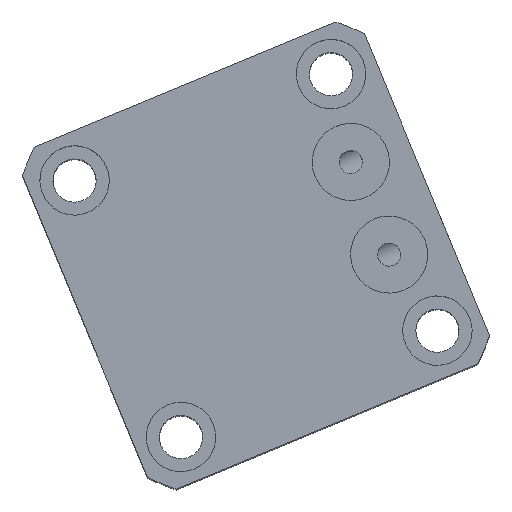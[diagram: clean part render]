
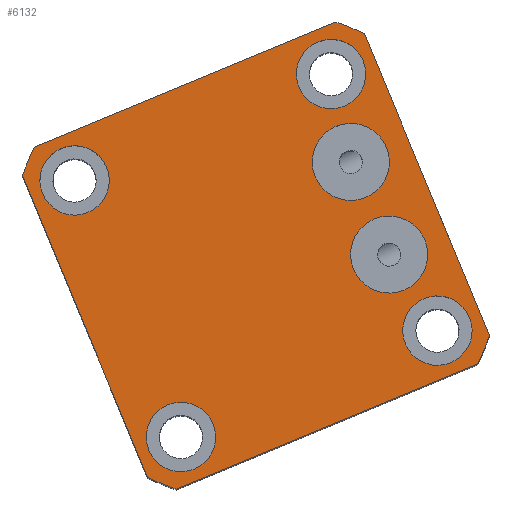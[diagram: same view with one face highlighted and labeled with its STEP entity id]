
A CAD part, top view. The second image highlights one B-rep face of the part: STEP entity #6132.
In plain terms, the highlighted planar face has unit normal (0, 0, 1).
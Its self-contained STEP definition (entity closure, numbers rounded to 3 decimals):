
#2981=PLANE('',#12441);
#3350=LINE('',#18782,#4257);
#3354=LINE('',#19142,#4261);
#3358=LINE('',#19151,#4265);
#3362=LINE('',#19160,#4269);
#4257=VECTOR('',#12922,1.);
#4261=VECTOR('',#13040,1.);
#4265=VECTOR('',#13046,1.);
#4269=VECTOR('',#13052,1.);
#6132=ADVANCED_FACE('',(#6701,#6702,#6703,#6704,#6705,#6706,#6707),#2981,
 .F.);
#6701=FACE_BOUND('',#6895,.T.);
#6702=FACE_BOUND('',#6896,.T.);
#6703=FACE_BOUND('',#6897,.T.);
#6704=FACE_BOUND('',#6898,.T.);
#6705=FACE_BOUND('',#6899,.T.);
#6706=FACE_BOUND('',#6900,.T.);
#6707=FACE_BOUND('',#6901,.T.);
#6895=EDGE_LOOP('',(#7706));
#6896=EDGE_LOOP('',(#7707));
#6897=EDGE_LOOP('',(#7708));
#6898=EDGE_LOOP('',(#7709));
#6899=EDGE_LOOP('',(#7710));
#6900=EDGE_LOOP('',(#7711));
#6901=EDGE_LOOP('',(#7712,#7713,#7714,#7715,#7716,#7717,#7718,#7719));
#7706=ORIENTED_EDGE('',*,*,#11044,.F.);
#7707=ORIENTED_EDGE('',*,*,#11046,.F.);
#7708=ORIENTED_EDGE('',*,*,#11056,.F.);
#7709=ORIENTED_EDGE('',*,*,#11058,.F.);
#7710=ORIENTED_EDGE('',*,*,#11060,.F.);
#7711=ORIENTED_EDGE('',*,*,#11062,.F.);
#7712=ORIENTED_EDGE('',*,*,#11096,.F.);
#7713=ORIENTED_EDGE('',*,*,#11081,.F.);
#7714=ORIENTED_EDGE('',*,*,#11097,.F.);
#7715=ORIENTED_EDGE('',*,*,#11089,.F.);
#7716=ORIENTED_EDGE('',*,*,#11098,.F.);
#7717=ORIENTED_EDGE('',*,*,#11085,.F.);
#7718=ORIENTED_EDGE('',*,*,#11099,.F.);
#7719=ORIENTED_EDGE('',*,*,#11037,.F.);
#10103=VERTEX_POINT('',#18780);
#10105=VERTEX_POINT('',#18783);
#10111=VERTEX_POINT('',#18931);
#10113=VERTEX_POINT('',#18936);
#10122=VERTEX_POINT('',#19080);
#10124=VERTEX_POINT('',#19085);
#10126=VERTEX_POINT('',#19090);
#10128=VERTEX_POINT('',#19095);
#10146=VERTEX_POINT('',#19140);
#10148=VERTEX_POINT('',#19143);
#10150=VERTEX_POINT('',#19149);
#10152=VERTEX_POINT('',#19152);
#10154=VERTEX_POINT('',#19158);
#10156=VERTEX_POINT('',#19161);
#11037=EDGE_CURVE('',#10103,#10105,#3350,.T.);
#11044=EDGE_CURVE('',#10111,#10111,#12246,.T.);
#11046=EDGE_CURVE('',#10113,#10113,#12248,.T.);
#11056=EDGE_CURVE('',#10122,#10122,#12256,.T.);
#11058=EDGE_CURVE('',#10124,#10124,#12258,.T.);
#11060=EDGE_CURVE('',#10126,#10126,#12260,.T.);
#11062=EDGE_CURVE('',#10128,#10128,#12262,.T.);
#11081=EDGE_CURVE('',#10146,#10148,#3354,.T.);
#11085=EDGE_CURVE('',#10150,#10152,#3358,.T.);
#11089=EDGE_CURVE('',#10154,#10156,#3362,.T.);
#11096=EDGE_CURVE('',#10148,#10103,#12284,.T.);
#11097=EDGE_CURVE('',#10156,#10146,#12285,.T.);
#11098=EDGE_CURVE('',#10152,#10154,#12286,.T.);
#11099=EDGE_CURVE('',#10105,#10150,#12287,.T.);
#12246=CIRCLE('',#12377,5.);
#12248=CIRCLE('',#12380,5.);
#12256=CIRCLE('',#12393,4.5);
#12258=CIRCLE('',#12396,4.5);
#12260=CIRCLE('',#12399,4.5);
#12262=CIRCLE('',#12402,4.5);
#12284=CIRCLE('',#12437,32.);
#12285=CIRCLE('',#12438,32.);
#12286=CIRCLE('',#12439,32.);
#12287=CIRCLE('',#12440,32.);
#12377=AXIS2_PLACEMENT_3D('',#18930,#12935,#12936);
#12380=AXIS2_PLACEMENT_3D('',#18935,#12941,#12942);
#12393=AXIS2_PLACEMENT_3D('',#19079,#12967,#12968);
#12396=AXIS2_PLACEMENT_3D('',#19084,#12973,#12974);
#12399=AXIS2_PLACEMENT_3D('',#19089,#12979,#12980);
#12402=AXIS2_PLACEMENT_3D('',#19094,#12985,#12986);
#12437=AXIS2_PLACEMENT_3D('',#19171,#13067,#13068);
#12438=AXIS2_PLACEMENT_3D('',#19172,#13069,#13070);
#12439=AXIS2_PLACEMENT_3D('',#19173,#13071,#13072);
#12440=AXIS2_PLACEMENT_3D('',#19174,#13073,#13074);
#12441=AXIS2_PLACEMENT_3D('',#19175,#13075,#13076);
#12922=DIRECTION('',(0.924,0.383,0.));
#12935=DIRECTION('',(0.,0.,1.));
#12936=DIRECTION('',(0.924,0.383,0.));
#12941=DIRECTION('',(0.,0.,1.));
#12942=DIRECTION('',(0.924,0.383,0.));
#12967=DIRECTION('',(0.,0.,1.));
#12968=DIRECTION('',(0.924,0.383,0.));
#12973=DIRECTION('',(0.,0.,1.));
#12974=DIRECTION('',(0.924,0.383,0.));
#12979=DIRECTION('',(0.,0.,1.));
#12980=DIRECTION('',(0.924,0.383,0.));
#12985=DIRECTION('',(0.,0.,1.));
#12986=DIRECTION('',(0.924,0.383,0.));
#13040=DIRECTION('',(-0.383,0.924,0.));
#13046=DIRECTION('',(0.383,-0.924,0.));
#13052=DIRECTION('',(-0.924,-0.383,0.));
#13067=DIRECTION('',(0.,0.,-1.));
#13068=DIRECTION('',(-0.924,-0.383,0.));
#13069=DIRECTION('',(0.,0.,-1.));
#13070=DIRECTION('',(-0.924,-0.383,0.));
#13071=DIRECTION('',(0.,0.,-1.));
#13072=DIRECTION('',(-0.924,-0.383,0.));
#13073=DIRECTION('',(0.,0.,-1.));
#13074=DIRECTION('',(-0.924,-0.383,0.));
#13075=DIRECTION('',(0.,0.,-1.));
#13076=DIRECTION('',(0.924,0.383,0.));
#18780=CARTESIAN_POINT('',(-81.682,28.05,78.338));
#18782=CARTESIAN_POINT('',(-39.96,45.351,78.338));
#18783=CARTESIAN_POINT('',(-42.578,44.266,78.338));
#18930=CARTESIAN_POINT('',(-35.667,14.113,78.338));
#18931=CARTESIAN_POINT('',(-31.049,16.028,78.338));
#18935=CARTESIAN_POINT('',(-40.647,26.121,78.338));
#18936=CARTESIAN_POINT('',(-36.028,28.037,78.338));
#19079=CARTESIAN_POINT('',(-62.669,-9.534,78.338));
#19080=CARTESIAN_POINT('',(-58.512,-7.81,78.338));
#19084=CARTESIAN_POINT('',(-29.415,4.256,78.338));
#19085=CARTESIAN_POINT('',(-25.258,5.98,78.338));
#19089=CARTESIAN_POINT('',(-43.205,37.51,78.338));
#19090=CARTESIAN_POINT('',(-39.048,39.234,78.338));
#19094=CARTESIAN_POINT('',(-76.459,23.721,78.338));
#19095=CARTESIAN_POINT('',(-72.302,25.444,78.338));
#19140=CARTESIAN_POINT('',(-66.999,-14.756,78.338));
#19142=CARTESIAN_POINT('',(-84.299,26.965,78.338));
#19143=CARTESIAN_POINT('',(-83.214,24.347,78.338));
#19149=CARTESIAN_POINT('',(-38.875,42.733,78.338));
#19151=CARTESIAN_POINT('',(-39.96,45.351,78.338));
#19152=CARTESIAN_POINT('',(-22.66,3.63,78.338));
#19158=CARTESIAN_POINT('',(-24.192,-0.073,78.338));
#19160=CARTESIAN_POINT('',(-21.574,1.012,78.338));
#19161=CARTESIAN_POINT('',(-63.295,-16.289,78.338));
#19171=CARTESIAN_POINT('',(-52.937,13.988,78.338));
#19172=CARTESIAN_POINT('',(-52.937,13.988,78.338));
#19173=CARTESIAN_POINT('',(-52.937,13.988,78.338));
#19174=CARTESIAN_POINT('',(-52.937,13.988,78.338));
#19175=CARTESIAN_POINT('',(-52.937,13.988,78.338));
